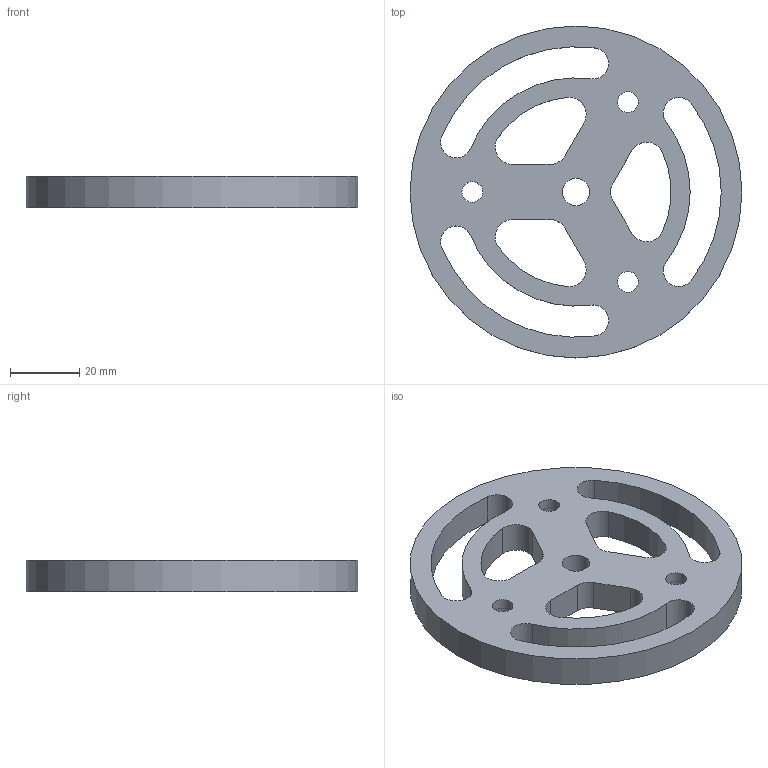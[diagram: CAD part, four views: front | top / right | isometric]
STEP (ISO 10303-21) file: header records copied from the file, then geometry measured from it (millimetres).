
FILE_DESCRIPTION(/* description */ ('STEP AP242','CAx-IF Rec.Pracs.---Representation and Presentation of Product Manufacturing Information (PMI)---4.0---2014-10-13','CAx-IF Rec.Pracs.---3D Tessellated Geometry---0.4---2014-09-14','2;1'),/* implementation_level */ '2;1');
FILE_NAME(/* name */ '29 - Adapter Proxisky PE210 - Adapter Proxisky PE210',/* time_stamp */ '2024-12-03T19:58:34Z',/* author */ (''),/* organization */ (''),/* preprocessor_version */ 'ST-DEVELOPER v20',/* originating_system */ 'ONSHAPE BY PTC INC, 1.190',/* authorisation */ ' ');
FILE_SCHEMA (('AP242_MANAGED_MODEL_BASED_3D_ENGINEERING_MIM_LF { 1 0 10303 442 1 1 4 }'));
Length unit declared in the file: metre
Products named in the file (1): Adapter Proxisky PE210
Bounding box: 96 x 96 x 9 mm (x, y, z)
Volume: 39240.3 mm3; surface area: 18125 mm2
Topology: 1 solids, 1 shells, 43 faces, 114 edges, 76 vertices
Faces by surface type: cylinder 32, plane 11
Full cylindrical faces by diameter (mm): 6 x3, 7.938 x1, 11.25 x3, 96 x1
Entity records: 1394 total; most frequent: DIRECTION 258, CARTESIAN_POINT 226, ORIENTED_EDGE 212, AXIS2_PLACEMENT_3D 108, EDGE_CURVE 106, VERTEX_POINT 76, EDGE_LOOP 74, FACE_BOUND 74
